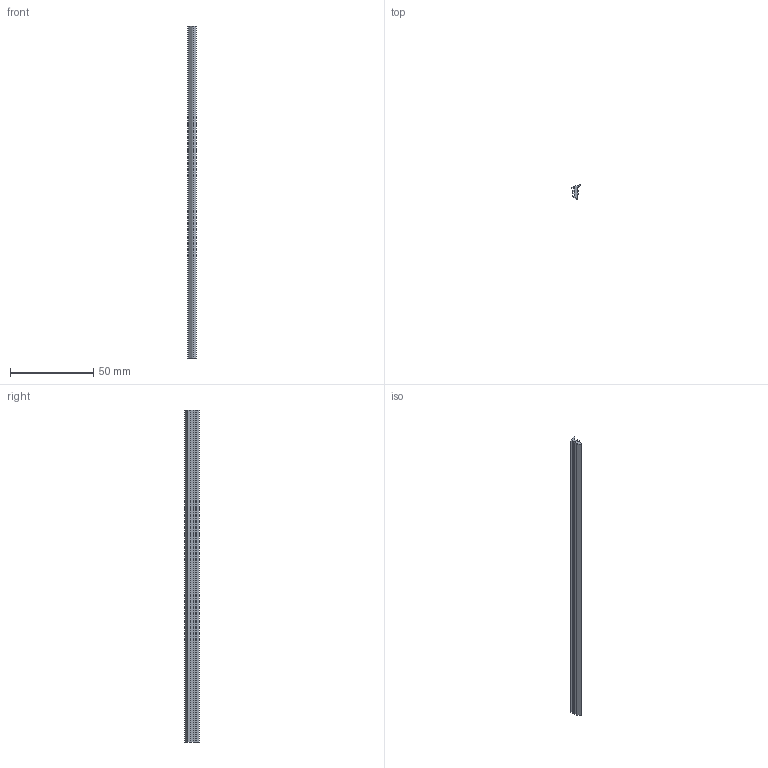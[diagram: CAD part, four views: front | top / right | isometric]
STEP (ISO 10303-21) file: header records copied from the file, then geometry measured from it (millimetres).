
FILE_DESCRIPTION((''),'2;1');
FILE_NAME('E:\catalogue and flyer\Profile catalogue 2015\Accessories ACC info\Accessories ACC step file 31Mar16\ACC-LS851A.stp','2016-04-07T14:52:12',('h029'),(''),'Autodesk Inventor 11','Autodesk Inventor 11','');
FILE_SCHEMA(('AUTOMOTIVE_DESIGN { 1 0 10303 214 1 1 1 1 }'));
Length unit declared in the file: millimetre
Products named in the file (1): 2
Bounding box: 5.24 x 8.47 x 200 mm (x, y, z)
Volume: 3390.5 mm3; surface area: 6214.7 mm2
Topology: 1 solids, 1 shells, 29 faces, 81 edges, 54 vertices
Faces by surface type: plane 20, cylinder 9
Entity records: 956 total; most frequent: CARTESIAN_POINT 165, ORIENTED_EDGE 162, DIRECTION 159, EDGE_CURVE 81, VECTOR 63, LINE 63, VERTEX_POINT 54, AXIS2_PLACEMENT_3D 48
